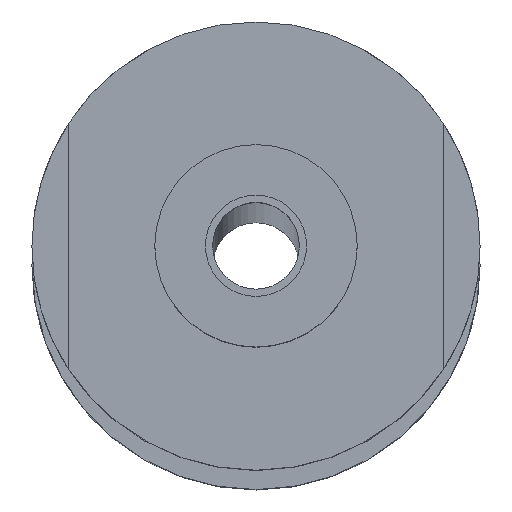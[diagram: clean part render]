
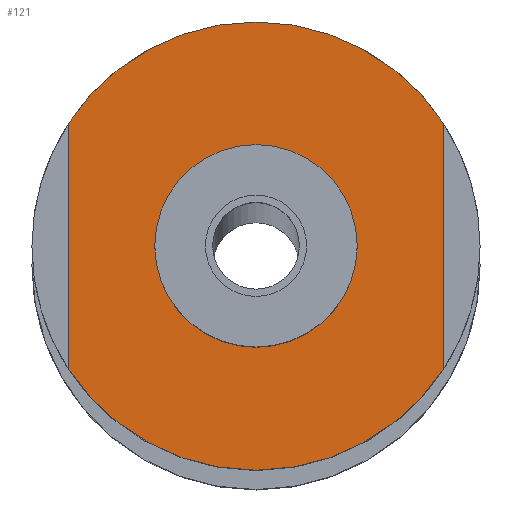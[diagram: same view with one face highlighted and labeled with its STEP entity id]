
A CAD part, top view. The second image highlights one B-rep face of the part: STEP entity #121.
In plain terms, the highlighted planar face has unit normal (0, 0, 1).
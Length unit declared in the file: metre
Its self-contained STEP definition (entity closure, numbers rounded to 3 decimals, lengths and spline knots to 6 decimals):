
#121=ADVANCED_FACE('37:1511',(#238,#239),#240,.T.);
#238=FACE_OUTER_BOUND('',#364,.T.);
#239=FACE_BOUND('',#365,.T.);
#240=PLANE('',#366);
#364=EDGE_LOOP('',(#596,#597,#598,#599,#600,#601));
#365=EDGE_LOOP('',(#602,#603));
#366=AXIS2_PLACEMENT_3D('',#604,#605,#606);
#596=ORIENTED_EDGE('',*,*,#761,.F.);
#597=ORIENTED_EDGE('',*,*,#760,.F.);
#598=ORIENTED_EDGE('',*,*,#756,.F.);
#599=ORIENTED_EDGE('',*,*,#688,.F.);
#600=ORIENTED_EDGE('',*,*,#687,.F.);
#601=ORIENTED_EDGE('',*,*,#751,.T.);
#602=ORIENTED_EDGE('',*,*,#749,.F.);
#603=ORIENTED_EDGE('',*,*,#693,.F.);
#604=CARTESIAN_POINT('',(0.0,0.0,3.145));
#605=DIRECTION('',(0.0,0.0,1.0));
#606=DIRECTION('',(1.0,0.0,0.0));
#687=EDGE_CURVE('37:1561',#812,#814,#815,.F.);
#688=EDGE_CURVE('37:1552',#814,#816,#817,.F.);
#693=EDGE_CURVE('',#822,#825,#826,.T.);
#749=EDGE_CURVE('37:1539',#825,#822,#907,.T.);
#751=EDGE_CURVE('37:3142',#812,#909,#910,.T.);
#756=EDGE_CURVE('37:2641',#816,#917,#918,.F.);
#760=EDGE_CURVE('37:1558',#917,#922,#923,.F.);
#761=EDGE_CURVE('37:1549',#922,#909,#924,.F.);
#812=VERTEX_POINT('',#1001);
#814=VERTEX_POINT('',#1004);
#815=CIRCLE('',#1005,0.0155);
#816=VERTEX_POINT('',#1006);
#817=CIRCLE('',#1007,0.0155);
#822=VERTEX_POINT('',#1013);
#825=VERTEX_POINT('',#1017);
#826=CIRCLE('',#1018,0.007);
#907=CIRCLE('',#1116,0.007);
#909=VERTEX_POINT('',#1118);
#910=LINE('',#1119,#1120);
#917=VERTEX_POINT('',#1130);
#918=LINE('',#1131,#1132);
#922=VERTEX_POINT('',#1137);
#923=CIRCLE('',#1138,0.0155);
#924=CIRCLE('',#1139,0.0155);
#1001=CARTESIAN_POINT('',(-0.013092,0.008536,3.145));
#1004=CARTESIAN_POINT('',(-0.000092,0.015595,3.145));
#1005=AXIS2_PLACEMENT_3D('',#1221,#1222,#1223);
#1006=CARTESIAN_POINT('',(0.012908,0.008536,3.145));
#1007=AXIS2_PLACEMENT_3D('',#1224,#1225,#1226);
#1013=CARTESIAN_POINT('',(0.006908,0.000095,3.145));
#1017=CARTESIAN_POINT('',(-0.007092,0.000095,3.145));
#1018=AXIS2_PLACEMENT_3D('',#1232,#1233,#1234);
#1116=AXIS2_PLACEMENT_3D('',#1318,#1319,#1320);
#1118=CARTESIAN_POINT('',(-0.013092,-0.008346,3.145));
#1119=CARTESIAN_POINT('',(-0.013092,0.000048,3.145));
#1120=VECTOR('',#1321,1.0);
#1130=CARTESIAN_POINT('',(0.012908,-0.008346,3.145));
#1131=CARTESIAN_POINT('',(0.012908,0.000048,3.145));
#1132=VECTOR('',#1325,1.0);
#1137=CARTESIAN_POINT('',(-0.000092,-0.015405,3.145));
#1138=AXIS2_PLACEMENT_3D('',#1330,#1331,#1332);
#1139=AXIS2_PLACEMENT_3D('',#1333,#1334,#1335);
#1221=CARTESIAN_POINT('',(-0.000092,0.000095,3.145));
#1222=DIRECTION('',(0.0,0.0,1.0));
#1223=DIRECTION('',(1.0,0.0,0.0));
#1224=CARTESIAN_POINT('',(-0.000092,0.000095,3.145));
#1225=DIRECTION('',(0.0,0.0,1.0));
#1226=DIRECTION('',(1.0,0.0,0.0));
#1232=CARTESIAN_POINT('',(-0.000092,0.000095,3.145));
#1233=DIRECTION('',(0.0,0.0,1.0));
#1234=DIRECTION('',(1.0,0.0,-0.0));
#1318=CARTESIAN_POINT('',(-0.000092,0.000095,3.145));
#1319=DIRECTION('',(0.0,0.0,1.0));
#1320=DIRECTION('',(1.0,0.0,-0.0));
#1321=DIRECTION('',(0.,-1.0,0.0));
#1325=DIRECTION('',(0.,1.0,0.0));
#1330=CARTESIAN_POINT('',(-0.000092,0.000095,3.145));
#1331=DIRECTION('',(0.0,0.0,1.0));
#1332=DIRECTION('',(1.0,0.0,0.0));
#1333=CARTESIAN_POINT('',(-0.000092,0.000095,3.145));
#1334=DIRECTION('',(0.0,0.0,1.0));
#1335=DIRECTION('',(1.0,0.0,0.0));
